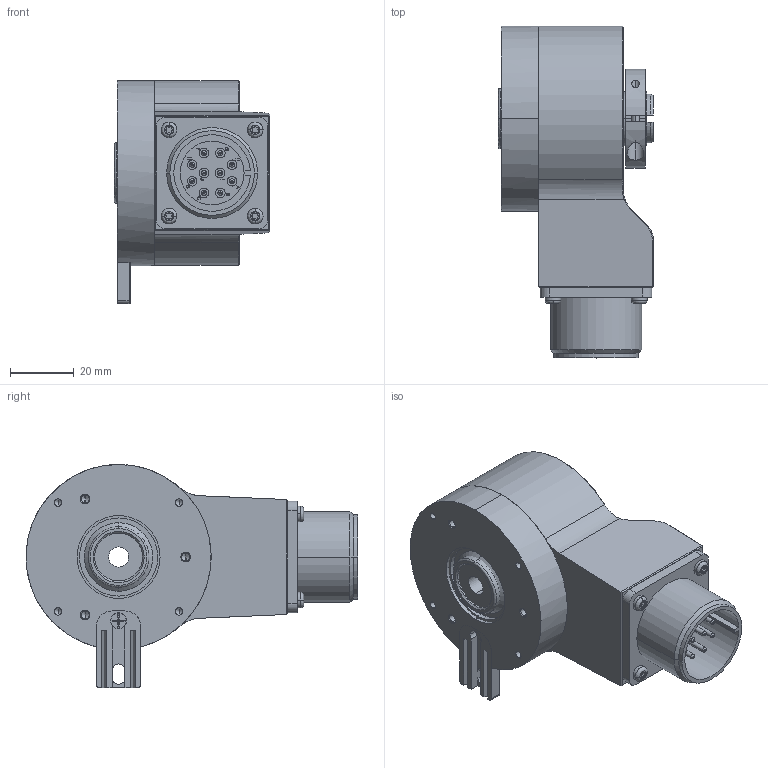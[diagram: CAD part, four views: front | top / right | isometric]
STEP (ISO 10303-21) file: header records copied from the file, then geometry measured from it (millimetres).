
FILE_DESCRIPTION (( 'STEP AP203' ), '1' );
FILE_NAME ('K58I.OXX.XXXXX.XC2151A.6XRCJ.step', '2025-12-08T12:05:49', ( '' ), ( '' ), 'SwSTEP 2.0', 'SolidWorks 2021', '' );
FILE_SCHEMA (( 'CONFIG_CONTROL_DESIGN' ));
Length unit declared in the file: millimetre
Products named in the file (1): K58I.OXX.XXXXX.XC2151A.6XRCJ
Bounding box: 48.6 x 104 x 69.9 mm (x, y, z)
Volume: 145828 mm3; surface area: 43857.6 mm2
Topology: 8 solids, 8 shells, 631 faces, 1586 edges, 1014 vertices
Faces by surface type: plane 253, cylinder 240, cone 55, bspline 55, torus 28
Entity records: 23138 total; most frequent: CARTESIAN_POINT 7988, ORIENTED_EDGE 3144, DIRECTION 3122, EDGE_CURVE 1572, AXIS2_PLACEMENT_3D 1147, VERTEX_POINT 1014, LINE 828, VECTOR 828
